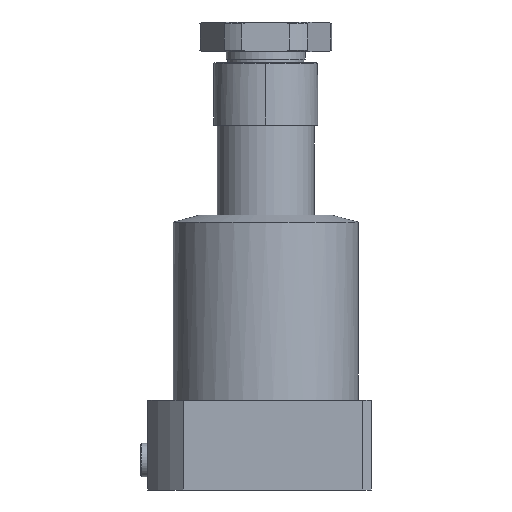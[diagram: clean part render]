
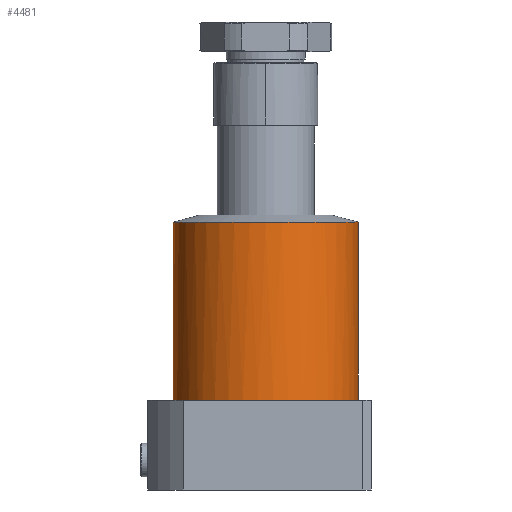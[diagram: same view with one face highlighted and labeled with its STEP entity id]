
A CAD part, front view. The second image highlights one B-rep face of the part: STEP entity #4481.
In plain terms, the highlighted cylindrical face has radius 52.5 mm (diameter 105 mm), a partial arc.
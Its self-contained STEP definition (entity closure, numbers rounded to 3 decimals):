
#117 = DIRECTION ( 'NONE',  ( -1., 0., 0. ) ) ;
#447 = VECTOR ( 'NONE', #15761, 1000. ) ;
#501 = EDGE_CURVE ( 'NONE', #2399, #13038, #10745, .T. ) ;
#718 = DIRECTION ( 'NONE',  ( 0., 0., -1. ) ) ;
#938 = CARTESIAN_POINT ( 'NONE',  ( -52.5, 0., 156. ) ) ;
#1365 = AXIS2_PLACEMENT_3D ( 'NONE', #5216, #15078, #6655 ) ;
#1494 = AXIS2_PLACEMENT_3D ( 'NONE', #11471, #2996, #12894 ) ;
#2189 = ORIENTED_EDGE ( 'NONE', *, *, #11816, .T. ) ;
#2399 = VERTEX_POINT ( 'NONE', #12573 ) ;
#2557 = DIRECTION ( 'NONE',  ( 0., 0., -1. ) ) ;
#2996 = DIRECTION ( 'NONE',  ( 0., 0., -1. ) ) ;
#3048 = EDGE_CURVE ( 'NONE', #5781, #4150, #10039, .T. ) ;
#3065 = ORIENTED_EDGE ( 'NONE', *, *, #14527, .F. ) ;
#3531 = ORIENTED_EDGE ( 'NONE', *, *, #14301, .F. ) ;
#4103 = CARTESIAN_POINT ( 'NONE',  ( 0., 0., 51. ) ) ;
#4150 = VERTEX_POINT ( 'NONE', #6487 ) ;
#4481 = ADVANCED_FACE ( 'NONE', ( #14412 ), #13973, .T. ) ;
#4521 = CIRCLE ( 'NONE', #15586, 52.5 ) ;
#5216 = CARTESIAN_POINT ( 'NONE',  ( 0., 0., 151.981 ) ) ;
#5551 = DIRECTION ( 'NONE',  ( -1., 0., 0. ) ) ;
#5628 = CARTESIAN_POINT ( 'NONE',  ( -52.5, 0., 51. ) ) ;
#5696 = CIRCLE ( 'NONE', #15214, 52.5 ) ;
#5781 = VERTEX_POINT ( 'NONE', #14101 ) ;
#5829 = EDGE_CURVE ( 'NONE', #13646, #7755, #7586, .T. ) ;
#6487 = CARTESIAN_POINT ( 'NONE',  ( 35.581, -38.604, 51. ) ) ;
#6534 = CARTESIAN_POINT ( 'NONE',  ( 52.5, 0., 151.981 ) ) ;
#6655 = DIRECTION ( 'NONE',  ( -1., 0., 0. ) ) ;
#6729 = DIRECTION ( 'NONE',  ( 0., 0., -1. ) ) ;
#7256 = CARTESIAN_POINT ( 'NONE',  ( 0., 0., 51. ) ) ;
#7358 = CARTESIAN_POINT ( 'NONE',  ( 52.5, 0., 156. ) ) ;
#7453 = VECTOR ( 'NONE', #2557, 1000. ) ;
#7586 = LINE ( 'NONE', #7358, #447 ) ;
#7755 = VERTEX_POINT ( 'NONE', #17513 ) ;
#7839 = CARTESIAN_POINT ( 'NONE',  ( 0., 0., 156. ) ) ;
#8289 = EDGE_CURVE ( 'NONE', #7755, #5781, #5696, .T. ) ;
#8653 = DIRECTION ( 'NONE',  ( 0., 0., -1. ) ) ;
#8684 = DIRECTION ( 'NONE',  ( -1., 0., 0. ) ) ;
#9985 = CIRCLE ( 'NONE', #11970, 52.5 ) ;
#10039 = CIRCLE ( 'NONE', #10727, 52.5 ) ;
#10436 = ORIENTED_EDGE ( 'NONE', *, *, #8289, .F. ) ;
#10645 = DIRECTION ( 'NONE',  ( -1., 0., 0. ) ) ;
#10689 = VERTEX_POINT ( 'NONE', #15742 ) ;
#10727 = AXIS2_PLACEMENT_3D ( 'NONE', #4103, #13986, #5551 ) ;
#10745 = LINE ( 'NONE', #938, #7453 ) ;
#10943 = CIRCLE ( 'NONE', #1365, 52.5 ) ;
#11471 = CARTESIAN_POINT ( 'NONE',  ( 0., 0., 51. ) ) ;
#11555 = AXIS2_PLACEMENT_3D ( 'NONE', #7839, #718, #10645 ) ;
#11623 = ORIENTED_EDGE ( 'NONE', *, *, #501, .T. ) ;
#11816 = EDGE_CURVE ( 'NONE', #13646, #2399, #10943, .T. ) ;
#11970 = AXIS2_PLACEMENT_3D ( 'NONE', #17047, #8653, #117 ) ;
#12053 = EDGE_CURVE ( 'NONE', #4150, #10689, #4521, .T. ) ;
#12471 = ORIENTED_EDGE ( 'NONE', *, *, #12053, .F. ) ;
#12573 = CARTESIAN_POINT ( 'NONE',  ( -52.5, 0., 151.981 ) ) ;
#12798 = CARTESIAN_POINT ( 'NONE',  ( -38.604, -35.581, 51. ) ) ;
#12894 = DIRECTION ( 'NONE',  ( -1., 0., 0. ) ) ;
#13038 = VERTEX_POINT ( 'NONE', #5628 ) ;
#13646 = VERTEX_POINT ( 'NONE', #6534 ) ;
#13717 = CIRCLE ( 'NONE', #1494, 52.5 ) ;
#13973 = CYLINDRICAL_SURFACE ( 'NONE', #11555, 52.5 ) ;
#13986 = DIRECTION ( 'NONE',  ( 0., 0., -1. ) ) ;
#14051 = EDGE_LOOP ( 'NONE', ( #14967, #2189, #11623, #3531, #3065, #12471, #16506, #10436 ) ) ;
#14101 = CARTESIAN_POINT ( 'NONE',  ( 38.604, -35.581, 51. ) ) ;
#14301 = EDGE_CURVE ( 'NONE', #16470, #13038, #13717, .T. ) ;
#14412 = FACE_OUTER_BOUND ( 'NONE', #14051, .T. ) ;
#14527 = EDGE_CURVE ( 'NONE', #10689, #16470, #9985, .T. ) ;
#14967 = ORIENTED_EDGE ( 'NONE', *, *, #5829, .F. ) ;
#15078 = DIRECTION ( 'NONE',  ( 0., 0., -1. ) ) ;
#15142 = CARTESIAN_POINT ( 'NONE',  ( 0., 0., 51. ) ) ;
#15214 = AXIS2_PLACEMENT_3D ( 'NONE', #15142, #6729, #16547 ) ;
#15586 = AXIS2_PLACEMENT_3D ( 'NONE', #7256, #17070, #8684 ) ;
#15742 = CARTESIAN_POINT ( 'NONE',  ( -35.581, -38.604, 51. ) ) ;
#15761 = DIRECTION ( 'NONE',  ( 0., 0., -1. ) ) ;
#16470 = VERTEX_POINT ( 'NONE', #12798 ) ;
#16506 = ORIENTED_EDGE ( 'NONE', *, *, #3048, .F. ) ;
#16547 = DIRECTION ( 'NONE',  ( -1., 0., 0. ) ) ;
#17047 = CARTESIAN_POINT ( 'NONE',  ( 0., 0., 51. ) ) ;
#17070 = DIRECTION ( 'NONE',  ( 0., 0., -1. ) ) ;
#17513 = CARTESIAN_POINT ( 'NONE',  ( 52.5, 0., 51. ) ) ;
